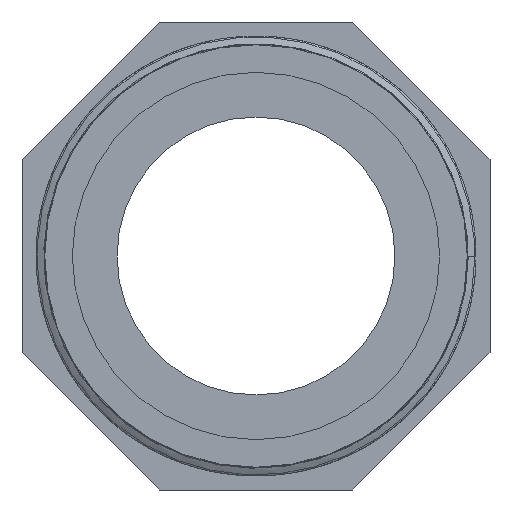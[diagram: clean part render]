
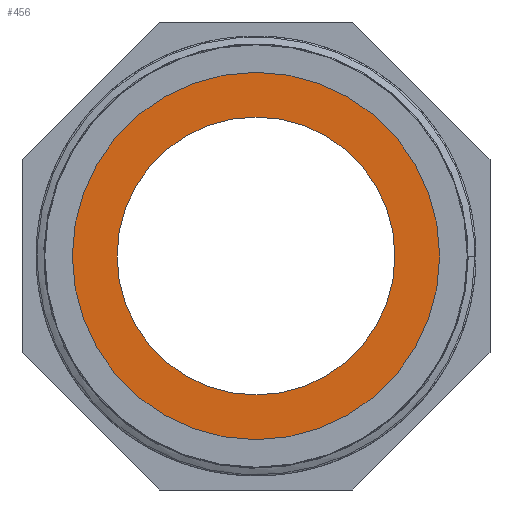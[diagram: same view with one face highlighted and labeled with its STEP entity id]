
A CAD part, front view. The second image highlights one B-rep face of the part: STEP entity #456.
In plain terms, the highlighted planar face has unit normal (0, -1, 0).
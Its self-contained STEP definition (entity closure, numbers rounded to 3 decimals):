
#19=FACE_BOUND('',#95,.T.);
#28=PLANE('',#483);
#47=CIRCLE('',#484,31.4);
#48=CIRCLE('',#485,23.75);
#65=FACE_OUTER_BOUND('',#94,.T.);
#94=EDGE_LOOP('',(#360));
#95=EDGE_LOOP('',(#361));
#222=VERTEX_POINT('',#10257);
#223=VERTEX_POINT('',#10259);
#276=EDGE_CURVE('',#222,#222,#47,.T.);
#277=EDGE_CURVE('',#223,#223,#48,.T.);
#360=ORIENTED_EDGE('',*,*,#276,.T.);
#361=ORIENTED_EDGE('',*,*,#277,.F.);
#456=ADVANCED_FACE('',(#65,#19),#28,.F.);
#483=AXIS2_PLACEMENT_3D('',#10256,#530,#531);
#484=AXIS2_PLACEMENT_3D('',#10258,#532,#533);
#485=AXIS2_PLACEMENT_3D('',#10260,#534,#535);
#530=DIRECTION('center_axis',(0.,1.,0.));
#531=DIRECTION('ref_axis',(0.,0.,1.));
#532=DIRECTION('center_axis',(0.,-1.,0.));
#533=DIRECTION('ref_axis',(-1.,0.,0.));
#534=DIRECTION('center_axis',(0.,-1.,0.));
#535=DIRECTION('ref_axis',(-1.,0.,0.));
#10256=CARTESIAN_POINT('Origin',(0.,0.,0.));
#10257=CARTESIAN_POINT('',(31.4,0.,0.));
#10258=CARTESIAN_POINT('Origin',(0.,0.,0.));
#10259=CARTESIAN_POINT('',(23.75,0.,0.));
#10260=CARTESIAN_POINT('Origin',(0.,0.,0.));
